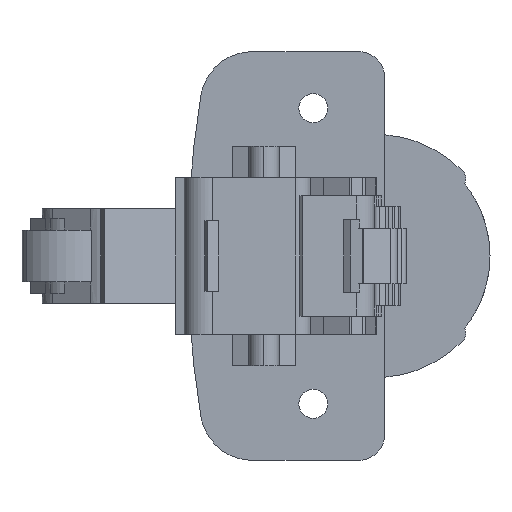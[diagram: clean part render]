
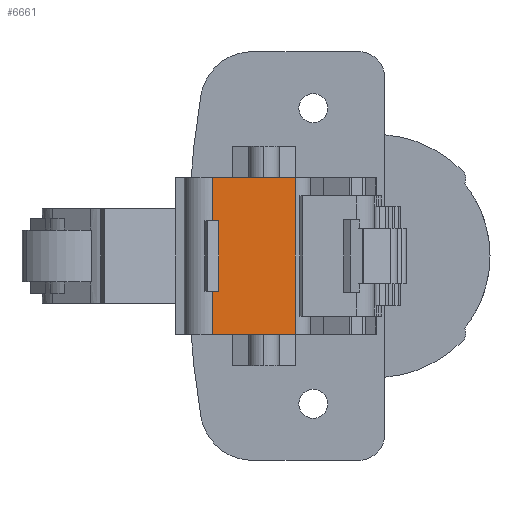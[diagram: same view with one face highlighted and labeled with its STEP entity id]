
A CAD part, left-side view. The second image highlights one B-rep face of the part: STEP entity #6661.
In plain terms, the highlighted planar face has unit normal (-0.999, -0.054, 0).
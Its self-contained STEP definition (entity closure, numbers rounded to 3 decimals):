
#303 = ORIENTED_EDGE ( 'NONE', *, *, #1962, .F. ) ;
#362 = CARTESIAN_POINT ( 'NONE',  ( 6.099, 50.07, 11.9 ) ) ;
#487 = LINE ( 'NONE', #1295, #5298 ) ;
#521 = CARTESIAN_POINT ( 'NONE',  ( 6.155, 49.033, -9.45 ) ) ;
#609 = LINE ( 'NONE', #3555, #8354 ) ;
#615 = DIRECTION ( 'NONE',  ( 0., 0., -1. ) ) ;
#857 = ORIENTED_EDGE ( 'NONE', *, *, #4608, .T. ) ;
#884 = VECTOR ( 'NONE', #1119, 1000. ) ;
#954 = VERTEX_POINT ( 'NONE', #6896 ) ;
#1077 = CARTESIAN_POINT ( 'NONE',  ( 6.155, 49.033, -5.343 ) ) ;
#1119 = DIRECTION ( 'NONE',  ( -0.054, 0.999, 0. ) ) ;
#1295 = CARTESIAN_POINT ( 'NONE',  ( 6.056, 50.875, 11.9 ) ) ;
#1502 = VECTOR ( 'NONE', #2102, 1000. ) ;
#1508 = CARTESIAN_POINT ( 'NONE',  ( 6.099, 50.07, -78.221 ) ) ;
#1529 = VERTEX_POINT ( 'NONE', #9485 ) ;
#1813 = VERTEX_POINT ( 'NONE', #362 ) ;
#1853 = VECTOR ( 'NONE', #615, 1000. ) ;
#1878 = CARTESIAN_POINT ( 'NONE',  ( 6.056, 50.875, -9.45 ) ) ;
#1962 = EDGE_CURVE ( 'NONE', #954, #6143, #9473, .T. ) ;
#1975 = ORIENTED_EDGE ( 'NONE', *, *, #5364, .F. ) ;
#2102 = DIRECTION ( 'NONE',  ( 0., 0., 1. ) ) ;
#2123 = VERTEX_POINT ( 'NONE', #4684 ) ;
#2186 = DIRECTION ( 'NONE',  ( 0., 0., 1. ) ) ;
#2193 = DIRECTION ( 'NONE',  ( 0., 0., -1. ) ) ;
#2286 = DIRECTION ( 'NONE',  ( 0.999, 0.054, 0. ) ) ;
#2303 = EDGE_CURVE ( 'NONE', #2123, #1813, #487, .T. ) ;
#2831 = PLANE ( 'NONE',  #8312 ) ;
#2906 = ORIENTED_EDGE ( 'NONE', *, *, #4991, .F. ) ;
#2948 = CARTESIAN_POINT ( 'NONE',  ( 6.099, 50.07, -78.221 ) ) ;
#3555 = CARTESIAN_POINT ( 'NONE',  ( 6.155, 49.033, -5.343 ) ) ;
#4085 = DIRECTION ( 'NONE',  ( -0.054, 0.999, 0. ) ) ;
#4187 = LINE ( 'NONE', #521, #1853 ) ;
#4258 = CARTESIAN_POINT ( 'NONE',  ( 6.155, 49.033, 5.343 ) ) ;
#4608 = EDGE_CURVE ( 'NONE', #1529, #2123, #8034, .T. ) ;
#4684 = CARTESIAN_POINT ( 'NONE',  ( 6.782, 37.445, 11.9 ) ) ;
#4977 = VERTEX_POINT ( 'NONE', #9333 ) ;
#4991 = EDGE_CURVE ( 'NONE', #4977, #6513, #9282, .T. ) ;
#5298 = VECTOR ( 'NONE', #5542, 1000. ) ;
#5364 = EDGE_CURVE ( 'NONE', #1529, #954, #7749, .T. ) ;
#5542 = DIRECTION ( 'NONE',  ( -0.054, 0.999, 0. ) ) ;
#5797 = VERTEX_POINT ( 'NONE', #1077 ) ;
#5863 = ORIENTED_EDGE ( 'NONE', *, *, #6060, .F. ) ;
#5998 = CARTESIAN_POINT ( 'NONE',  ( 6.782, 37.445, 9.45 ) ) ;
#6060 = EDGE_CURVE ( 'NONE', #6513, #1813, #6567, .T. ) ;
#6089 = EDGE_LOOP ( 'NONE', ( #8241, #303, #1975, #857, #6147, #5863, #2906, #8427 ) ) ;
#6143 = VERTEX_POINT ( 'NONE', #6765 ) ;
#6147 = ORIENTED_EDGE ( 'NONE', *, *, #2303, .T. ) ;
#6494 = DIRECTION ( 'NONE',  ( -0.054, 0.999, 0. ) ) ;
#6513 = VERTEX_POINT ( 'NONE', #9258 ) ;
#6567 = LINE ( 'NONE', #1508, #7990 ) ;
#6580 = EDGE_CURVE ( 'NONE', #4977, #5797, #4187, .T. ) ;
#6661 = ADVANCED_FACE ( 'NONE', ( #7221 ), #2831, .F. ) ;
#6765 = CARTESIAN_POINT ( 'NONE',  ( 6.099, 50.07, -5.343 ) ) ;
#6883 = CARTESIAN_POINT ( 'NONE',  ( 6.056, 50.875, -11.9 ) ) ;
#6896 = CARTESIAN_POINT ( 'NONE',  ( 6.099, 50.07, -11.9 ) ) ;
#7221 = FACE_OUTER_BOUND ( 'NONE', #6089, .T. ) ;
#7519 = VECTOR ( 'NONE', #4085, 1000. ) ;
#7749 = LINE ( 'NONE', #6883, #7519 ) ;
#7990 = VECTOR ( 'NONE', #9530, 1000. ) ;
#8034 = LINE ( 'NONE', #5998, #1502 ) ;
#8054 = EDGE_CURVE ( 'NONE', #5797, #6143, #609, .T. ) ;
#8085 = VECTOR ( 'NONE', #2186, 1000. ) ;
#8241 = ORIENTED_EDGE ( 'NONE', *, *, #8054, .T. ) ;
#8312 = AXIS2_PLACEMENT_3D ( 'NONE', #1878, #2286, #2193 ) ;
#8354 = VECTOR ( 'NONE', #6494, 1000. ) ;
#8427 = ORIENTED_EDGE ( 'NONE', *, *, #6580, .T. ) ;
#9258 = CARTESIAN_POINT ( 'NONE',  ( 6.099, 50.07, 5.343 ) ) ;
#9282 = LINE ( 'NONE', #4258, #884 ) ;
#9333 = CARTESIAN_POINT ( 'NONE',  ( 6.155, 49.033, 5.343 ) ) ;
#9473 = LINE ( 'NONE', #2948, #8085 ) ;
#9485 = CARTESIAN_POINT ( 'NONE',  ( 6.782, 37.445, -11.9 ) ) ;
#9530 = DIRECTION ( 'NONE',  ( 0., 0., 1. ) ) ;
